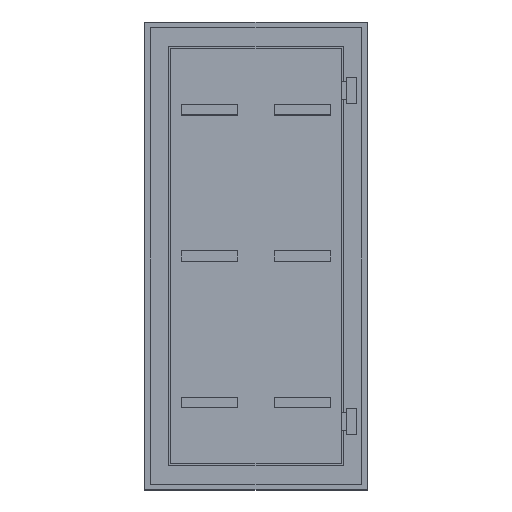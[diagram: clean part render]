
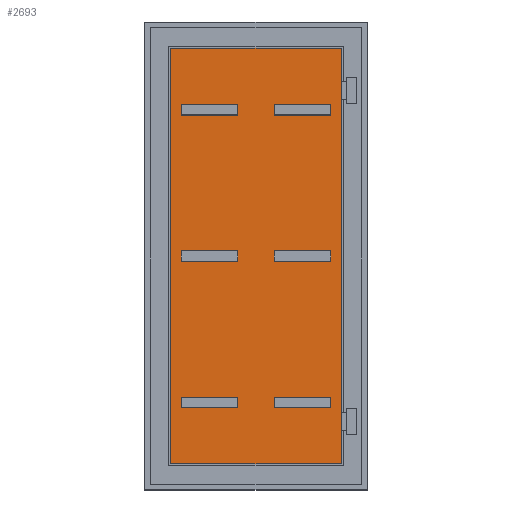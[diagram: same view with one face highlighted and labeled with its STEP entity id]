
A CAD part, top view. The second image highlights one B-rep face of the part: STEP entity #2693.
In plain terms, the highlighted planar face has unit normal (0, 0, 1).
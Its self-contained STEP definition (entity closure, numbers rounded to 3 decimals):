
#642=DIRECTION('',(0.,-1.,0.));
#643=VECTOR('',#642,2032.);
#644=CARTESIAN_POINT('',(-416.,1016.,-41.));
#645=LINE('',#644,#643);
#646=DIRECTION('',(-1.,0.,0.));
#647=VECTOR('',#646,832.);
#648=CARTESIAN_POINT('',(416.,1016.,-41.));
#649=LINE('',#648,#647);
#650=DIRECTION('',(0.,1.,0.));
#651=VECTOR('',#650,2032.);
#652=CARTESIAN_POINT('',(416.,-1016.,-41.));
#653=LINE('',#652,#651);
#654=DIRECTION('',(1.,0.,0.));
#655=VECTOR('',#654,832.);
#656=CARTESIAN_POINT('',(-416.,-1016.,-41.));
#657=LINE('',#656,#655);
#658=DIRECTION('',(1.,0.,0.));
#659=VECTOR('',#658,275.);
#660=CARTESIAN_POINT('',(-365.,690.,-41.));
#661=LINE('',#660,#659);
#662=DIRECTION('',(0.,1.,0.));
#663=VECTOR('',#662,50.);
#664=CARTESIAN_POINT('',(-90.,690.,-41.));
#665=LINE('',#664,#663);
#666=DIRECTION('',(1.,0.,0.));
#667=VECTOR('',#666,275.);
#668=CARTESIAN_POINT('',(-365.,740.,-41.));
#669=LINE('',#668,#667);
#670=DIRECTION('',(0.,1.,0.));
#671=VECTOR('',#670,50.);
#672=CARTESIAN_POINT('',(-365.,690.,-41.));
#673=LINE('',#672,#671);
#674=DIRECTION('',(1.,0.,0.));
#675=VECTOR('',#674,275.);
#676=CARTESIAN_POINT('',(90.,690.,-41.));
#677=LINE('',#676,#675);
#678=DIRECTION('',(0.,1.,0.));
#679=VECTOR('',#678,50.);
#680=CARTESIAN_POINT('',(365.,690.,-41.));
#681=LINE('',#680,#679);
#682=DIRECTION('',(1.,0.,0.));
#683=VECTOR('',#682,275.);
#684=CARTESIAN_POINT('',(90.,740.,-41.));
#685=LINE('',#684,#683);
#686=DIRECTION('',(0.,1.,0.));
#687=VECTOR('',#686,50.);
#688=CARTESIAN_POINT('',(90.,690.,-41.));
#689=LINE('',#688,#687);
#690=DIRECTION('',(0.,-1.,0.));
#691=VECTOR('',#690,50.);
#692=CARTESIAN_POINT('',(90.,25.,-41.));
#693=LINE('',#692,#691);
#694=DIRECTION('',(1.,0.,0.));
#695=VECTOR('',#694,275.);
#696=CARTESIAN_POINT('',(90.,-25.,-41.));
#697=LINE('',#696,#695);
#698=DIRECTION('',(0.,1.,0.));
#699=VECTOR('',#698,50.);
#700=CARTESIAN_POINT('',(365.,-25.,-41.));
#701=LINE('',#700,#699);
#702=DIRECTION('',(-1.,0.,0.));
#703=VECTOR('',#702,275.);
#704=CARTESIAN_POINT('',(365.,25.,-41.));
#705=LINE('',#704,#703);
#706=DIRECTION('',(-1.,0.,0.));
#707=VECTOR('',#706,275.);
#708=CARTESIAN_POINT('',(-90.,25.,-41.));
#709=LINE('',#708,#707);
#710=DIRECTION('',(0.,-1.,0.));
#711=VECTOR('',#710,50.);
#712=CARTESIAN_POINT('',(-365.,25.,-41.));
#713=LINE('',#712,#711);
#714=DIRECTION('',(1.,0.,0.));
#715=VECTOR('',#714,275.);
#716=CARTESIAN_POINT('',(-365.,-25.,-41.));
#717=LINE('',#716,#715);
#718=DIRECTION('',(0.,1.,0.));
#719=VECTOR('',#718,50.);
#720=CARTESIAN_POINT('',(-90.,-25.,-41.));
#721=LINE('',#720,#719);
#722=DIRECTION('',(0.,-1.,0.));
#723=VECTOR('',#722,50.);
#724=CARTESIAN_POINT('',(90.,-690.,-41.));
#725=LINE('',#724,#723);
#726=DIRECTION('',(1.,0.,0.));
#727=VECTOR('',#726,275.);
#728=CARTESIAN_POINT('',(90.,-740.,-41.));
#729=LINE('',#728,#727);
#730=DIRECTION('',(0.,1.,0.));
#731=VECTOR('',#730,50.);
#732=CARTESIAN_POINT('',(365.,-740.,-41.));
#733=LINE('',#732,#731);
#734=DIRECTION('',(-1.,0.,0.));
#735=VECTOR('',#734,275.);
#736=CARTESIAN_POINT('',(365.,-690.,-41.));
#737=LINE('',#736,#735);
#738=DIRECTION('',(-1.,0.,0.));
#739=VECTOR('',#738,275.);
#740=CARTESIAN_POINT('',(-90.,-690.,-41.));
#741=LINE('',#740,#739);
#742=DIRECTION('',(0.,-1.,0.));
#743=VECTOR('',#742,50.);
#744=CARTESIAN_POINT('',(-365.,-690.,-41.));
#745=LINE('',#744,#743);
#746=DIRECTION('',(1.,0.,0.));
#747=VECTOR('',#746,275.);
#748=CARTESIAN_POINT('',(-365.,-740.,-41.));
#749=LINE('',#748,#747);
#750=DIRECTION('',(0.,1.,0.));
#751=VECTOR('',#750,50.);
#752=CARTESIAN_POINT('',(-90.,-740.,-41.));
#753=LINE('',#752,#751);
#1374=CARTESIAN_POINT('',(-416.,1016.,-41.));
#1375=CARTESIAN_POINT('',(-416.,-1016.,-41.));
#1376=VERTEX_POINT('',#1374);
#1377=VERTEX_POINT('',#1375);
#1378=CARTESIAN_POINT('',(416.,-1016.,-41.));
#1379=VERTEX_POINT('',#1378);
#1380=CARTESIAN_POINT('',(416.,1016.,-41.));
#1381=VERTEX_POINT('',#1380);
#1646=CARTESIAN_POINT('',(-365.,690.,-41.));
#1647=CARTESIAN_POINT('',(-90.,690.,-41.));
#1648=VERTEX_POINT('',#1646);
#1649=VERTEX_POINT('',#1647);
#1650=CARTESIAN_POINT('',(90.,690.,-41.));
#1651=CARTESIAN_POINT('',(365.,690.,-41.));
#1652=VERTEX_POINT('',#1650);
#1653=VERTEX_POINT('',#1651);
#1654=CARTESIAN_POINT('',(-365.,740.,-41.));
#1655=CARTESIAN_POINT('',(-90.,740.,-41.));
#1656=VERTEX_POINT('',#1654);
#1657=VERTEX_POINT('',#1655);
#1658=CARTESIAN_POINT('',(90.,740.,-41.));
#1659=CARTESIAN_POINT('',(365.,740.,-41.));
#1660=VERTEX_POINT('',#1658);
#1661=VERTEX_POINT('',#1659);
#1710=CARTESIAN_POINT('',(90.,25.,-41.));
#1711=CARTESIAN_POINT('',(90.,-25.,-41.));
#1712=VERTEX_POINT('',#1710);
#1713=VERTEX_POINT('',#1711);
#1714=CARTESIAN_POINT('',(365.,-25.,-41.));
#1715=VERTEX_POINT('',#1714);
#1716=CARTESIAN_POINT('',(365.,25.,-41.));
#1717=VERTEX_POINT('',#1716);
#1718=CARTESIAN_POINT('',(-90.,25.,-41.));
#1719=CARTESIAN_POINT('',(-365.,25.,-41.));
#1720=VERTEX_POINT('',#1718);
#1721=VERTEX_POINT('',#1719);
#1722=CARTESIAN_POINT('',(-365.,-25.,-41.));
#1723=VERTEX_POINT('',#1722);
#1724=CARTESIAN_POINT('',(-90.,-25.,-41.));
#1725=VERTEX_POINT('',#1724);
#1774=CARTESIAN_POINT('',(90.,-690.,-41.));
#1775=CARTESIAN_POINT('',(90.,-740.,-41.));
#1776=VERTEX_POINT('',#1774);
#1777=VERTEX_POINT('',#1775);
#1778=CARTESIAN_POINT('',(365.,-740.,-41.));
#1779=VERTEX_POINT('',#1778);
#1780=CARTESIAN_POINT('',(365.,-690.,-41.));
#1781=VERTEX_POINT('',#1780);
#1782=CARTESIAN_POINT('',(-90.,-690.,-41.));
#1783=CARTESIAN_POINT('',(-365.,-690.,-41.));
#1784=VERTEX_POINT('',#1782);
#1785=VERTEX_POINT('',#1783);
#1786=CARTESIAN_POINT('',(-365.,-740.,-41.));
#1787=VERTEX_POINT('',#1786);
#1788=CARTESIAN_POINT('',(-90.,-740.,-41.));
#1789=VERTEX_POINT('',#1788);
#2624=CARTESIAN_POINT('',(0.,0.,-41.));
#2625=DIRECTION('',(0.,0.,1.));
#2626=DIRECTION('',(1.,0.,0.));
#2627=AXIS2_PLACEMENT_3D('',#2624,#2625,#2626);
#2628=PLANE('',#2627);
#2630=ORIENTED_EDGE('',*,*,#2629,.F.);
#2632=ORIENTED_EDGE('',*,*,#2631,.F.);
#2634=ORIENTED_EDGE('',*,*,#2633,.F.);
#2636=ORIENTED_EDGE('',*,*,#2635,.F.);
#2637=EDGE_LOOP('',(#2630,#2632,#2634,#2636));
#2638=FACE_OUTER_BOUND('',#2637,.F.);
#2639=ORIENTED_EDGE('',*,*,#2392,.T.);
#2640=ORIENTED_EDGE('',*,*,#2459,.T.);
#2641=ORIENTED_EDGE('',*,*,#2524,.F.);
#2642=ORIENTED_EDGE('',*,*,#2589,.F.);
#2643=EDGE_LOOP('',(#2639,#2640,#2641,#2642));
#2644=FACE_BOUND('',#2643,.F.);
#2645=ORIENTED_EDGE('',*,*,#2415,.T.);
#2647=ORIENTED_EDGE('',*,*,#2646,.T.);
#2648=ORIENTED_EDGE('',*,*,#2546,.F.);
#2650=ORIENTED_EDGE('',*,*,#2649,.F.);
#2651=EDGE_LOOP('',(#2645,#2647,#2648,#2650));
#2652=FACE_BOUND('',#2651,.F.);
#2654=ORIENTED_EDGE('',*,*,#2653,.T.);
#2656=ORIENTED_EDGE('',*,*,#2655,.T.);
#2658=ORIENTED_EDGE('',*,*,#2657,.T.);
#2660=ORIENTED_EDGE('',*,*,#2659,.T.);
#2661=EDGE_LOOP('',(#2654,#2656,#2658,#2660));
#2662=FACE_BOUND('',#2661,.F.);
#2664=ORIENTED_EDGE('',*,*,#2663,.T.);
#2666=ORIENTED_EDGE('',*,*,#2665,.T.);
#2668=ORIENTED_EDGE('',*,*,#2667,.T.);
#2670=ORIENTED_EDGE('',*,*,#2669,.T.);
#2671=EDGE_LOOP('',(#2664,#2666,#2668,#2670));
#2672=FACE_BOUND('',#2671,.F.);
#2674=ORIENTED_EDGE('',*,*,#2673,.T.);
#2676=ORIENTED_EDGE('',*,*,#2675,.T.);
#2678=ORIENTED_EDGE('',*,*,#2677,.T.);
#2680=ORIENTED_EDGE('',*,*,#2679,.T.);
#2681=EDGE_LOOP('',(#2674,#2676,#2678,#2680));
#2682=FACE_BOUND('',#2681,.F.);
#2684=ORIENTED_EDGE('',*,*,#2683,.T.);
#2686=ORIENTED_EDGE('',*,*,#2685,.T.);
#2688=ORIENTED_EDGE('',*,*,#2687,.T.);
#2690=ORIENTED_EDGE('',*,*,#2689,.T.);
#2691=EDGE_LOOP('',(#2684,#2686,#2688,#2690));
#2692=FACE_BOUND('',#2691,.F.);
#2392=EDGE_CURVE('',#1648,#1649,#661,.T.);
#2415=EDGE_CURVE('',#1652,#1653,#677,.T.);
#2459=EDGE_CURVE('',#1649,#1657,#665,.T.);
#2524=EDGE_CURVE('',#1656,#1657,#669,.T.);
#2546=EDGE_CURVE('',#1660,#1661,#685,.T.);
#2589=EDGE_CURVE('',#1648,#1656,#673,.T.);
#2629=EDGE_CURVE('',#1376,#1377,#645,.T.);
#2631=EDGE_CURVE('',#1381,#1376,#649,.T.);
#2633=EDGE_CURVE('',#1379,#1381,#653,.T.);
#2635=EDGE_CURVE('',#1377,#1379,#657,.T.);
#2646=EDGE_CURVE('',#1653,#1661,#681,.T.);
#2649=EDGE_CURVE('',#1652,#1660,#689,.T.);
#2653=EDGE_CURVE('',#1712,#1713,#693,.T.);
#2655=EDGE_CURVE('',#1713,#1715,#697,.T.);
#2657=EDGE_CURVE('',#1715,#1717,#701,.T.);
#2659=EDGE_CURVE('',#1717,#1712,#705,.T.);
#2663=EDGE_CURVE('',#1720,#1721,#709,.T.);
#2665=EDGE_CURVE('',#1721,#1723,#713,.T.);
#2667=EDGE_CURVE('',#1723,#1725,#717,.T.);
#2669=EDGE_CURVE('',#1725,#1720,#721,.T.);
#2673=EDGE_CURVE('',#1776,#1777,#725,.T.);
#2675=EDGE_CURVE('',#1777,#1779,#729,.T.);
#2677=EDGE_CURVE('',#1779,#1781,#733,.T.);
#2679=EDGE_CURVE('',#1781,#1776,#737,.T.);
#2683=EDGE_CURVE('',#1784,#1785,#741,.T.);
#2685=EDGE_CURVE('',#1785,#1787,#745,.T.);
#2687=EDGE_CURVE('',#1787,#1789,#749,.T.);
#2689=EDGE_CURVE('',#1789,#1784,#753,.T.);
#2693=ADVANCED_FACE('',(#2638,#2644,#2652,#2662,#2672,#2682,#2692),#2628,.T.);
